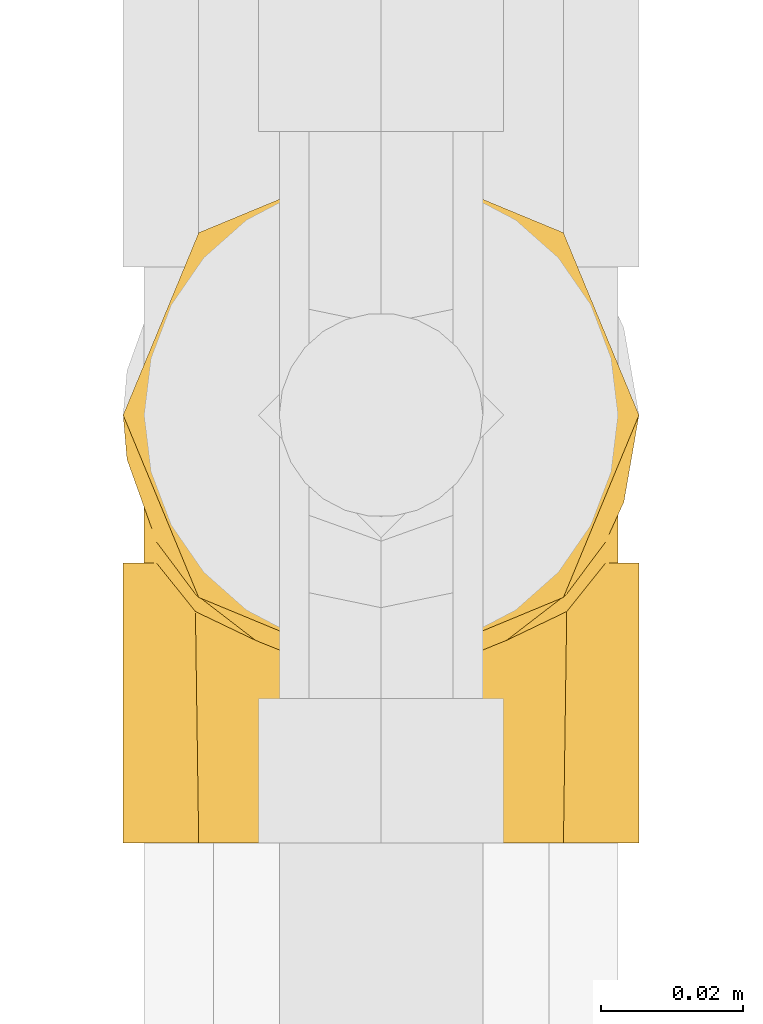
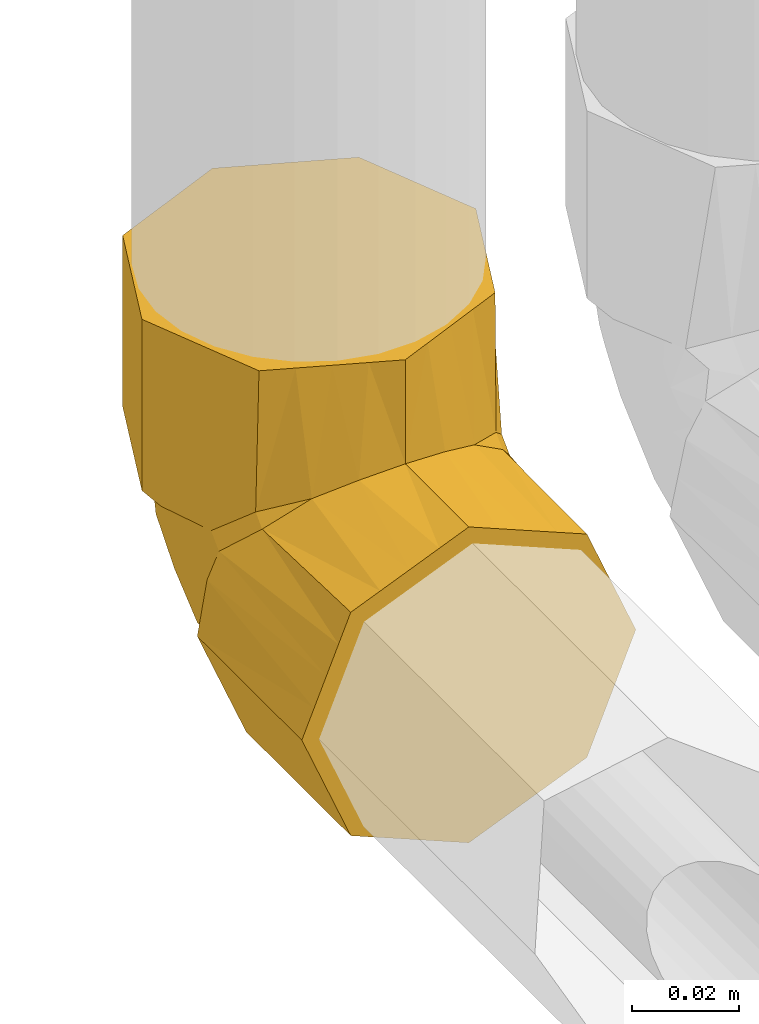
# One storey, part 236 of 652: 1 covering.
"""IFC2X3 building model written with IfcOpenShell, lengths in millimetres."""

import ifcopenshell
import ifcopenshell.guid

model = None  # the IFC model being written
_history = None  # IfcOwnerHistory: only IFC2X3 demands one
_inside = {}  # id of a spatial element -> (the spatial element, [elements in it])
_under = {}  # id of a project, library or spatial element -> (it, [spatial elements below it])
_declared = {}  # id of a project -> (the project, [libraries it declares])
_typed = {}  # id of a type object -> (the type object, [elements of that type])
_made_of = {}  # id of a material, layer set ... -> (it, [elements and type objects made of it])


def new_model(schema):
    """Start an empty IFC model of exactly this schema.

    Asked for "IFC4X3", IfcOpenShell would pick the latest addendum, in which some entities
    have other attributes; the version numbers below select the first issue.
    IFC2X3 requires an IfcOwnerHistory on every rooted entity: one is made here for all.
    """
    global model, _history
    if schema == "IFC4X3":
        model = ifcopenshell.file(schema_version=(4, 3, 0, 0))
    else:
        model = ifcopenshell.file(schema=schema)
    _inside.clear()
    _under.clear()
    _declared.clear()
    _typed.clear()
    _made_of.clear()
    _history = None
    if model.schema == "IFC2X3":
        org = make("IfcOrganization", Name="unknown")
        user = make(
            "IfcPersonAndOrganization",
            ThePerson=make("IfcPerson", FamilyName="unknown"),
            TheOrganization=org,
        )
        app = make(
            "IfcApplication",
            ApplicationDeveloper=org,
            Version="unknown",
            ApplicationFullName="unknown",
            ApplicationIdentifier="unknown",
        )
        _history = make(
            "IfcOwnerHistory",
            OwningUser=user,
            OwningApplication=app,
            ChangeAction="ADDED",
            CreationDate=0,
        )
    return model


def make(cls, **values):
    """One entity of the class cls with the attributes given. An attribute that is None is left unset."""
    return model.create_entity(
        cls, **{name: value for name, value in values.items() if value is not None}
    )


def entity(cls, *values):
    """Any entity or typed value of the class cls, its attributes in the order of the schema. None: left unset."""
    e = model.create_entity(cls)
    for i, value in enumerate(values):
        if value is not None:
            e[i] = value
    return e


def rooted(cls, **values):
    """An entity with a GlobalId (a new one), such as an element, a storey or a relation."""
    return make(cls, GlobalId=ifcopenshell.guid.new(), OwnerHistory=_history, **values)


def si_unit(unit_type, name, prefix=None):
    """IfcSIUnit, for example si_unit("LENGTHUNIT", "METRE", prefix="MILLI")."""
    return make("IfcSIUnit", UnitType=unit_type, Prefix=prefix, Name=name)


def converted_unit(unit_type, name, factor, base, dimensions=None, offset=None):
    """IfcConversionBasedUnit, such as the inch: factor (a typed value) times the base unit."""
    return make(
        "IfcConversionBasedUnit"
        if offset is None
        else "IfcConversionBasedUnitWithOffset",
        ConversionOffset=offset,
        Dimensions=None
        if dimensions is None
        else entity("IfcDimensionalExponents", *dimensions),
        UnitType=unit_type,
        Name=name,
        ConversionFactor=make(
            "IfcMeasureWithUnit", ValueComponent=factor, UnitComponent=base
        ),
    )


def assignment(units):
    """IfcUnitAssignment: the units of a project."""
    return None if units is None else make("IfcUnitAssignment", Units=units)


def point(xyz):
    """IfcCartesianPoint."""
    return None if xyz is None else make("IfcCartesianPoint", Coordinates=xyz)


def direction(xyz):
    """IfcDirection."""
    return None if xyz is None else make("IfcDirection", DirectionRatios=xyz)


def frame(location, z_axis=None, x_axis=None):
    """IfcAxis2Placement3D, a coordinate frame: its origin and axes. An axis left out is left unset."""
    return make(
        "IfcAxis2Placement3D",
        Location=point(location),
        Axis=direction(z_axis),
        RefDirection=direction(x_axis),
    )


def origin():
    """The frame at (0, 0, 0) with its axes left unset."""
    return frame((0.0, 0.0, 0.0))


def place(relative_to, where):
    """IfcLocalPlacement: puts the frame where relative to a parent placement (None: the world)."""
    return make(
        "IfcLocalPlacement", PlacementRelTo=relative_to, RelativePlacement=where
    )


def context(
    kind, dimensions, precision=None, world=None, true_north=None, identifier=None
):
    """IfcGeometricRepresentationContext, for example the 3D "Model" context."""
    return make(
        "IfcGeometricRepresentationContext",
        ContextIdentifier=identifier,
        ContextType=kind,
        CoordinateSpaceDimension=dimensions,
        Precision=precision,
        WorldCoordinateSystem=world,
        TrueNorth=true_north,
    )


def subcontext(parent, identifier, kind, view, scale=None):
    """IfcGeometricRepresentationSubContext, for example "Body" below "Model"."""
    return make(
        "IfcGeometricRepresentationSubContext",
        ContextIdentifier=identifier,
        ContextType=kind,
        ParentContext=parent,
        TargetScale=scale,
        TargetView=view,
    )


def project(units=None, contexts=None):
    """IfcProject with its units and contexts."""
    return rooted(
        "IfcProject",
        Name="project",
        RepresentationContexts=contexts,
        UnitsInContext=assignment(units),
    )


def spatial(cls, under=None, at=None, **own):
    """A site, building, storey or space (cls), placed at a placement, below another one or the project."""
    s = rooted(cls, ObjectPlacement=at, **own)
    if under is not None:
        _under.setdefault(under.id(), (under, []))[1].append(s)
    return s


def faces_of(points, faces, orient=None, outer=None):
    """IfcFace entities. A face is a list of loops; a loop is a list of indices into points, from 0.

    orient and outer hold one flag for each loop. By default every Orientation is true, the
    first loop of a face is its IfcFaceOuterBound and the others are IfcFaceBound.
    """
    made = []
    for i, loops in enumerate(faces):
        bounds = []
        for j, loop in enumerate(loops):
            is_outer = j == 0 if outer is None else outer[i][j]
            bounds.append(
                make(
                    "IfcFaceOuterBound" if is_outer else "IfcFaceBound",
                    Bound=make("IfcPolyLoop", Polygon=[points[k] for k in loop]),
                    Orientation=True if orient is None else orient[i][j],
                )
            )
        made.append(make("IfcFace", Bounds=bounds))
    return made


def faceted_brep(points, faces, orient=None, outer=None, voids=None):
    """IfcFacetedBrep: a solid bounded by flat faces; with voids (closed shells), ...WithVoids."""
    shared = [point(p) for p in points]
    hull = make("IfcClosedShell", CfsFaces=faces_of(shared, faces, orient, outer))
    if voids is None:
        return make("IfcFacetedBrep", Outer=hull)
    return make(
        "IfcFacetedBrepWithVoids",
        Outer=hull,
        Voids=[
            make(cls, CfsFaces=faces_of(shared, fs, o, b)) for cls, fs, o, b in voids
        ],
    )


def shape(context_of_items, identifier, shape_type, items):
    """IfcShapeRepresentation: the items that make up one representation, for example the "Body"."""
    return make(
        "IfcShapeRepresentation",
        ContextOfItems=context_of_items,
        RepresentationIdentifier=identifier,
        RepresentationType=shape_type,
        Items=items,
    )


def material(Name=None, Category=None):
    """IfcMaterial."""
    return make("IfcMaterial", Name=Name, Category=Category)


def made_of(thing, what):
    """Note that an element or type object is made of a material, layer set ...; save() writes the relation."""
    if what is not None:
        _made_of.setdefault(what.id(), (what, []))[1].append(thing)
    return thing


def type_object(cls, material=None, **own):
    """A type object (cls), such as IfcWallType, which elements share."""
    return made_of(rooted(cls, **own), material)


def element(
    cls,
    number,
    at=None,
    inside=None,
    cuts=None,
    type_object=None,
    material=None,
    context=None,
    identifier="Body",
    shape_type=None,
    held_by="IfcProductDefinitionShape",
    body=None,
    shapes=None,
    **own,
):
    """One element of the class cls, such as IfcWall. Its Tag is "e" and its number.

    at: its placement. inside: the storey or other place that contains it. cuts: it is an
    opening in that element (IfcRelVoidsElement). A single representation is given by context,
    identifier, shape_type and body (its items); several are given by shapes. held_by: the class
    of the entity that holds the representations. save() writes the other relations.
    """
    e = rooted(cls, Tag="e%d" % number, ObjectPlacement=at, **own)
    if body is not None:
        shapes = [shape(context, identifier, shape_type, body)]
    if shapes is not None:
        e.Representation = make(held_by, Representations=shapes)
    if inside is not None:
        _inside.setdefault(inside.id(), (inside, []))[1].append(e)
    if cuts is not None:
        rooted(
            "IfcRelVoidsElement", RelatingBuildingElement=cuts, RelatedOpeningElement=e
        )
    if type_object is not None:
        _typed.setdefault(type_object.id(), (type_object, []))[1].append(e)
    return made_of(e, material)


def aggregate(whole, parts):
    """IfcRelAggregates: a whole, such as a stair, and the parts it consists of."""
    return rooted("IfcRelAggregates", RelatingObject=whole, RelatedObjects=parts)


def save(model, path):
    """Write the relations noted so far, then the file.

    IfcRelAggregates (storeys below a building ...), IfcRelContainedInSpatialStructure (elements
    in a storey), IfcRelDefinesByType, IfcRelAssociatesMaterial and IfcRelDeclares: one each for
    every whole, place, type object, material and project.
    """
    for whole, parts in _under.values():
        aggregate(whole, parts)
    for where, things in _inside.values():
        rooted(
            "IfcRelContainedInSpatialStructure",
            RelatedElements=things,
            RelatingStructure=where,
        )
    for kind, things in _typed.values():
        rooted("IfcRelDefinesByType", RelatedObjects=things, RelatingType=kind)
    for what, things in _made_of.values():
        rooted("IfcRelAssociatesMaterial", RelatedObjects=things, RelatingMaterial=what)
    for by, libraries in _declared.values():
        rooted("IfcRelDeclares", RelatingContext=by, RelatedDefinitions=libraries)
    model.write(path)


model = new_model("IFC2X3")

# Units and contexts
model_context = context("Model", 3, precision=0.01, world=frame((0.0, 0.0, 308426.39999999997)), true_north=direction((6.123233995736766e-17, 1.0)))
plan_context = context("Plan", 3, precision=0.01, world=frame((0.0, 0.0, 308426.39999999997)), true_north=direction((6.123233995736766e-17, 1.0)))
body_context = subcontext(model_context, "Body", "Model", "MODEL_VIEW")
ifc_project = project(units=[si_unit("LENGTHUNIT", "METRE", prefix="MILLI"), si_unit("AREAUNIT", "SQUARE_METRE"), si_unit("VOLUMEUNIT", "CUBIC_METRE"), converted_unit("PLANEANGLEUNIT", "DEGREE", entity("IfcPlaneAngleMeasure", 0.017453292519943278), si_unit("PLANEANGLEUNIT", "RADIAN"), dimensions=[0, 0, 0, 0, 0, 0, 0])], contexts=[model_context, plan_context])

# Site, building, storey
site_placement = place(None, origin())
site = spatial("IfcSite", under=ifc_project, at=site_placement, Name="Default", CompositionType="ELEMENT")
building_placement = place(site_placement, origin())
building = spatial("IfcBuilding", under=site, at=building_placement, CompositionType="ELEMENT")
storey_placement = place(building_placement, frame((0.0, 0.0, 1730.6999999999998)))
storey = spatial("IfcBuildingStorey", under=building, at=storey_placement, Name="EG_Produktion_FFB", CompositionType="ELEMENT", Elevation=1730.6999999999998)

# Covering
ifc_material = material(Name="Dämmung - Armaflex-Schlauch")
covering_type = type_object("IfcCoveringType", Name="Rohrdämmung außen:Armaflex-Schlauch", PredefinedType="INSULATION")
covering_placement = place(storey_placement, frame((77542.20272776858, 51577.977603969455, 2362.202727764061)))
element("IfcCovering", 1, at=covering_placement, inside=storey, type_object=covering_type, material=ifc_material, Name="Rohrdämmung außen:Armaflex-Schlauch", ObjectType="Rohrdämmung außen:Armaflex-Schlauch", PredefinedType="INSULATION", context=body_context, shape_type="Brep", body=[
    faceted_brep([(71.87921900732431, 47.84396056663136, 58.588772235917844), (69.29766488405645, 42.20950377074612, 58.588772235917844), (70.60633213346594, 48.65740674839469, 58.588772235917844), (71.08477223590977, 55.22156502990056, 58.588772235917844), (67.71555609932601, 62.98224402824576, 58.588772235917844), (64.3463399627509, 70.7429230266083, 58.588772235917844), (61.730299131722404, 76.76873209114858, 58.588772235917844), (59.11425830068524, 82.79454115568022, 58.588772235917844), (48.455765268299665, 86.80982431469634, 58.588772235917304), (37.79727223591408, 90.82510747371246, 58.588772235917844), (31.16766916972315, 87.38848086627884, 58.588772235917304), (24.53806610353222, 83.95185425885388, 58.588772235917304), (17.90846303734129, 80.51522765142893, 58.588772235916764), (11.278859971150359, 77.07860104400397, 58.588772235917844), (9.166908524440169, 70.25921848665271, 58.588772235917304), (7.054957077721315, 63.439835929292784, 58.588772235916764), (4.509772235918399, 55.22156502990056, 58.588772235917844), (4.988212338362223, 48.65740674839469, 58.588772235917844), (6.296879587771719, 42.20950377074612, 58.588772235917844), (2.131188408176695, 53.84468293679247, 58.588772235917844), (1.5952722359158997, 60.05075000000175, 58.588772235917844), (4.747598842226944, 67.66113964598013, 58.588772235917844), (6.896932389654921, 72.85008984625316, 58.588772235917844), (9.547762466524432, 79.24975976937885, 58.588772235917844), (12.198592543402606, 85.64942969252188, 58.588772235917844), (18.598262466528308, 88.30025976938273, 58.588772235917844), (24.997932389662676, 90.9510898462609, 58.588772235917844), (31.39760231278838, 93.60191992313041, 58.588772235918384), (37.79727223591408, 96.25274999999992, 58.588772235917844), (45.407662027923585, 93.10042333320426, 58.588772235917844), (50.596612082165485, 90.9510898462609, 58.588772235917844), (56.996282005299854, 88.30025976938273, 58.588772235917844), (63.39595192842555, 85.64942969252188, 58.588772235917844), (66.04678200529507, 79.24975976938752, 58.588772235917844), (68.69761208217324, 72.85008984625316, 58.588772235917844), (71.34844215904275, 66.45041992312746, 58.588772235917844), (73.99927223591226, 60.05075000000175, 58.588772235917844), (12.198592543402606, 34.452070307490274, 97.84802223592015), (18.598262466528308, 31.801240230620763, 97.84802223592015), (24.997932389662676, 29.150410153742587, 97.84802223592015), (31.39760231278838, 26.499580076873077, 97.84802223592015), (37.79727223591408, 23.848750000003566, 97.84802223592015), (44.196942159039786, 26.499580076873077, 97.84802223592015), (50.596612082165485, 29.150410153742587, 97.84802223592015), (56.996282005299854, 31.801240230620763, 97.84802223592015), (63.39595192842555, 34.452070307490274, 97.84802223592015), (66.04678200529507, 40.851740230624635, 97.84802223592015), (68.69761208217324, 47.25141015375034, 97.84802223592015), (71.34844215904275, 53.65108007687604, 97.84802223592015), (73.99927223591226, 60.05075000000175, 97.84802223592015), (71.3484421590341, 66.45041992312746, 97.84802223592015), (68.69761208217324, 72.85008984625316, 97.84802223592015), (66.04678200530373, 79.24975976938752, 97.84802223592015), (63.39595192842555, 85.64942969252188, 97.84802223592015), (53.01805258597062, 89.94809634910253, 97.84802223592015), (45.40766241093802, 93.10042317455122, 97.84802223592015), (37.79727223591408, 96.25274999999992, 97.84802223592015), (31.39760231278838, 93.60191992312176, 97.84802223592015), (24.99793238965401, 90.9510898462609, 97.84802223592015), (18.598262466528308, 88.30025976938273, 97.84802223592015), (12.198592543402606, 85.64942969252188, 97.84802223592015), (7.899925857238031, 75.27153027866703, 97.84802223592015), (4.747599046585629, 67.66114013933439, 97.8480222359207), (1.5952722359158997, 60.05075000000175, 97.84802223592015), (4.246102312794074, 53.65108007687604, 97.84802223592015), (6.896932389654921, 47.25141015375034, 97.84802223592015), (9.547762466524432, 40.851740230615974, 97.84802223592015), (11.740817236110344, 34.91818234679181, 65.38133308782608), (28.451279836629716, 25.075941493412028, 72.77208074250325), (20.176179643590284, 28.426678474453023, 69.42134376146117), (37.79727223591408, 23.848750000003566, 73.99927223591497), (63.85372723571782, 34.91818234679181, 65.38133308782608), (47.14326463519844, 25.075941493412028, 72.77208074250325), (55.41836482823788, 28.426678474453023, 69.42134376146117), (73.99927223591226, 39.259249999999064, 37.797272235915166), (70.84694554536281, 39.259249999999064, 30.186882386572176), (68.69761208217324, 39.259249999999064, 24.99793238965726), (66.04678200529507, 39.259249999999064, 18.598262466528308), (63.39595192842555, 39.259249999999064, 12.198592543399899), (56.996282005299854, 39.259249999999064, 9.547762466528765), (50.596612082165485, 39.259249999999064, 6.8969323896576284), (44.196942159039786, 39.259249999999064, 4.246102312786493), (37.79727223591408, 39.259249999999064, 1.5952722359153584), (30.1868828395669, 39.259249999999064, 4.747598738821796), (24.997932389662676, 39.259249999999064, 6.8969323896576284), (18.598262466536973, 39.259249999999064, 9.547762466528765), (12.198592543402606, 39.259249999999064, 12.198592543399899), (9.547762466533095, 39.259249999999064, 18.598262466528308), (6.896932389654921, 39.259249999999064, 24.99793238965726), (4.246102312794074, 39.259249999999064, 31.397602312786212), (1.5952722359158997, 39.259249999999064, 37.797272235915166), (3.7153254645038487, 39.259249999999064, 50.004061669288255), (6.296879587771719, 39.259249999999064, 55.63851846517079), (4.988212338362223, 39.259249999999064, 49.19061548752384), (4.509772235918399, 39.259249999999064, 42.626457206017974), (7.88008535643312, 39.259249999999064, 34.86648312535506), (11.25039847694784, 39.259249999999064, 27.10650904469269), (13.869352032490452, 39.259249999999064, 21.076502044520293), (16.488305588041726, 39.259249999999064, 15.04649504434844), (27.142788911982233, 39.259249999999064, 11.034704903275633), (37.79727223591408, 39.259249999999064, 7.022914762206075), (44.42865853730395, 39.259249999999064, 10.462020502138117), (51.060044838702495, 39.259249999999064, 13.901126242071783), (57.69143114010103, 39.259249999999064, 17.340231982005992), (64.32281744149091, 39.259249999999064, 20.779337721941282), (66.43186813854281, 39.259249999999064, 27.593444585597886), (68.54091883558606, 39.259249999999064, 34.40755144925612), (71.08477223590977, 39.259249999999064, 42.626457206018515), (70.60633213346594, 39.259249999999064, 49.19061548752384), (69.29766488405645, 39.259249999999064, 55.63851846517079), (73.46335606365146, 39.259249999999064, 44.0033392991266), (12.198592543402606, 0.0, 12.198592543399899), (22.576492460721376, 0.0, 7.899925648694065), (30.186882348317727, 0.0, 4.747598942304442), (37.79727223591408, 0.0, 1.5952722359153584), (44.196942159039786, 0.0, 4.246102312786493), (50.596612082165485, 0.0, 6.8969323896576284), (56.996282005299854, 0.0, 9.547762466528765), (63.39595192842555, 0.0, 12.198592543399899), (67.6946185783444, 0.0, 22.576491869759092), (70.84694540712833, 0.0, 30.186882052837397), (73.99927223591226, 0.0, 37.797272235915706), (71.34844215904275, 0.0, 44.19694215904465), (68.69761208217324, 0.0, 50.59661208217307), (66.04678200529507, 0.0, 56.996282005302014), (63.39595192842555, 0.0, 63.39595192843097), (56.996282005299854, 0.0, 66.0467820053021), (50.596612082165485, 0.0, 68.69761208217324), (44.19694215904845, 0.0, 71.34844215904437), (37.79727223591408, 0.0, 73.99927223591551), (31.39760231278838, 0.0, 71.34844215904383), (24.99793238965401, 0.0, 68.69761208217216), (18.598262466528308, 0.0, 66.04678200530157), (12.198592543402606, 0.0, 63.39595192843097), (9.547762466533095, 0.0, 56.996282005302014), (6.896932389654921, 0.0, 50.59661208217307), (4.2461023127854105, 0.0, 44.19694215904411), (1.5952722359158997, 0.0, 37.797272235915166), (4.2461023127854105, 0.0, 31.397602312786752), (6.896932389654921, 0.0, 24.99793238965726), (9.547762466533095, 0.0, 18.598262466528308), (11.737179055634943, 32.46931160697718, 62.92606742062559), (63.85736541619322, 32.46931160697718, 62.92606742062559), (7.177794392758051, 64.47336868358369, 48.63783883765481), (5.499599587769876, 53.54260043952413, 43.212707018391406), (4.509772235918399, 48.39608948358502, 49.451932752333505), (4.509772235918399, 51.69618600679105, 53.869566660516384), (4.509772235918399, 43.97845581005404, 46.15183640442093), (7.409565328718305, 49.26703766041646, 32.778469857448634), (20.658699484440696, 70.8833285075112, 31.698613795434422), (28.03664899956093, 80.75349698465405, 39.25767537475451), (28.624831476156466, 68.06292306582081, 24.028919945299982), (14.425393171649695, 76.4287553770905, 47.98325688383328), (13.497141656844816, 68.9353156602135, 38.3194892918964), (10.228050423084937, 70.34021869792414, 47.45825483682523), (22.27387615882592, 56.04623238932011, 18.316870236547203), (14.075076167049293, 56.37699654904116, 25.794875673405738), (10.297293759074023, 54.931846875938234, 30.411581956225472), (20.69904166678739, 79.86410623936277, 44.13325858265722), (29.773051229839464, 55.68952897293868, 14.79763627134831), (37.79727223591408, 71.93390646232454, 25.914115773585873), (37.79727223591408, 82.58887454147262, 44.343194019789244), (37.79727223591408, 53.50482934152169, 15.25914834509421), (8.406242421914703, 59.635312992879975, 38.59116402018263), (71.08477223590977, 48.39608948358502, 49.451932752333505), (71.08477223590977, 51.6961860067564, 53.869566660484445), (71.08477223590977, 43.97845581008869, 46.15183640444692), (70.09487873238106, 54.64187234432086, 44.31181424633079), (62.097492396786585, 59.532384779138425, 28.91593723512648), (61.51694989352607, 72.055892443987, 41.4704912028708), (65.29616002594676, 67.43859640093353, 42.916409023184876), (54.93562200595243, 66.13891003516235, 26.95499830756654), (53.30572110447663, 79.54021097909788, 41.801558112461), (46.97006507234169, 73.80443609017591, 29.768823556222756), (45.80955540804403, 83.03128998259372, 42.11864888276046), (68.18492515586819, 65.06981549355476, 48.58116886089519), (47.5607401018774, 58.572069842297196, 17.083981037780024), (61.176550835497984, 49.86177721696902, 21.425942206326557), (65.36681198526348, 50.38826994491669, 27.507451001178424), (54.90236573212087, 53.706335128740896, 17.983898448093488), (68.41765540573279, 49.211823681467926, 33.37826549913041), (67.18808574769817, 59.257135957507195, 38.212411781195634)], [[[0, 1, 2, 3, 4, 5, 6, 7, 8, 9, 10, 11, 12, 13, 14, 15, 16, 17, 18, 19, 20, 21, 22, 23, 24, 25, 26, 27, 28, 29, 30, 31, 32, 33, 34, 35, 36]], [[37, 38, 39, 40, 41, 42, 43, 44, 45, 46, 47, 48, 49, 50, 51, 52, 53, 54, 55, 56, 57, 58, 59, 60, 61, 62, 63, 64, 65, 66]], [[38, 37, 67]], [[66, 67, 37]], [[67, 66, 18]], [[68, 39, 69]], [[69, 39, 38]], [[69, 38, 67]], [[65, 19, 18]], [[20, 19, 63]], [[40, 70, 41]], [[19, 65, 64, 63]], [[40, 39, 68]], [[70, 40, 68]], [[66, 65, 18]], [[63, 62, 61, 60, 24, 23, 22, 21, 20]], [[24, 60, 59, 58, 57, 56, 28, 27, 26, 25]], [[29, 28, 56, 55, 54, 53, 32, 31, 30]], [[32, 53, 52, 51, 50, 49, 36, 35, 34, 33]], [[71, 1, 46]], [[0, 47, 1]], [[1, 47, 46]], [[72, 43, 42]], [[71, 46, 45]], [[44, 71, 45]], [[36, 48, 0]], [[70, 42, 41]], [[48, 47, 0]], [[73, 43, 72]], [[71, 44, 73]], [[42, 70, 72]], [[48, 36, 49]], [[44, 43, 73]], [[74, 75, 76, 77, 78, 79, 80, 81, 82, 83, 84, 85, 86, 87, 88, 89, 90, 91, 92, 93, 94, 95, 96, 97, 98, 99, 100, 101, 102, 103, 104, 105, 106, 107, 108, 109, 110]], [[111, 112, 113, 114, 115, 116, 117, 118, 119, 120, 121, 122, 123, 124, 125, 126, 127, 128, 129, 130, 131, 132, 133, 134, 135, 136, 137, 138, 139, 140]], [[114, 113, 112, 111, 86, 85, 84, 83, 82]], [[86, 111, 140, 139, 138, 137, 90, 89, 88, 87]], [[141, 92, 134]], [[91, 135, 92]], [[68, 131, 130]], [[134, 133, 141]], [[132, 141, 133]], [[136, 135, 91]], [[90, 136, 91]], [[70, 130, 129]], [[136, 90, 137]], [[69, 131, 68]], [[141, 132, 69]], [[130, 70, 68]], [[92, 135, 134]], [[132, 131, 69]], [[126, 125, 142]], [[124, 142, 125]], [[142, 124, 109]], [[72, 127, 73]], [[73, 127, 126]], [[73, 126, 142]], [[123, 110, 109]], [[74, 110, 121]], [[128, 70, 129]], [[110, 123, 122, 121]], [[128, 127, 72]], [[70, 128, 72]], [[124, 123, 109]], [[75, 74, 121, 120, 119, 118, 78, 77, 76]], [[78, 118, 117, 116, 115, 114, 82, 81, 80, 79]], [[15, 143, 144]], [[144, 145, 146, 16]], [[144, 94, 147, 145]], [[96, 95, 148]], [[149, 150, 151]], [[152, 153, 154]], [[149, 155, 156]], [[153, 156, 157]], [[152, 158, 153]], [[16, 15, 144]], [[151, 159, 155]], [[96, 148, 157]], [[151, 155, 149]], [[153, 149, 156]], [[156, 97, 157]], [[160, 159, 151]], [[98, 156, 155]], [[99, 98, 155]], [[160, 150, 161]], [[99, 159, 100]], [[159, 160, 162, 100]], [[160, 151, 150]], [[150, 11, 10]], [[150, 149, 158]], [[10, 161, 150]], [[9, 161, 10]], [[99, 155, 159]], [[143, 15, 14]], [[152, 13, 12]], [[158, 12, 11]], [[150, 158, 11]], [[153, 158, 149]], [[158, 152, 12]], [[154, 163, 143]], [[154, 143, 14]], [[154, 13, 152]], [[143, 163, 144]], [[148, 144, 163]], [[94, 144, 95]], [[154, 14, 13]], [[163, 154, 153]], [[144, 148, 95]], [[157, 148, 163]], [[153, 157, 163]], [[156, 98, 97]], [[96, 157, 97]], [[18, 17, 145]], [[67, 141, 69]], [[141, 67, 18]], [[17, 16, 146, 145]], [[147, 94, 93, 145]], [[141, 18, 92]], [[93, 92, 145]], [[92, 18, 145]], [[164, 1, 109]], [[2, 164, 165, 3]], [[164, 2, 1]], [[1, 71, 142]], [[142, 109, 1]], [[108, 107, 166, 164]], [[108, 164, 109]], [[142, 71, 73]], [[107, 106, 167]], [[168, 169, 170]], [[171, 172, 169]], [[173, 172, 171]], [[167, 164, 166, 107]], [[173, 174, 172]], [[175, 170, 5]], [[168, 171, 169]], [[167, 3, 165, 164]], [[176, 173, 171]], [[177, 168, 178]], [[5, 4, 175]], [[177, 179, 168]], [[106, 180, 167]], [[169, 6, 170]], [[160, 174, 173]], [[7, 169, 172]], [[8, 7, 172]], [[160, 176, 162]], [[8, 174, 9]], [[174, 160, 161, 9]], [[160, 173, 176]], [[176, 102, 101]], [[176, 171, 179]], [[101, 162, 176]], [[100, 162, 101]], [[8, 172, 174]], [[180, 106, 105]], [[177, 104, 103]], [[179, 103, 102]], [[176, 179, 102]], [[168, 179, 171]], [[179, 177, 103]], [[178, 181, 180]], [[178, 180, 105]], [[178, 104, 177]], [[180, 181, 167]], [[175, 167, 181]], [[3, 167, 4]], [[178, 105, 104]], [[181, 178, 168]], [[167, 175, 4]], [[170, 175, 181]], [[168, 170, 181]], [[169, 7, 6]], [[5, 170, 6]]]),
])

save(model, "model.ifc")
